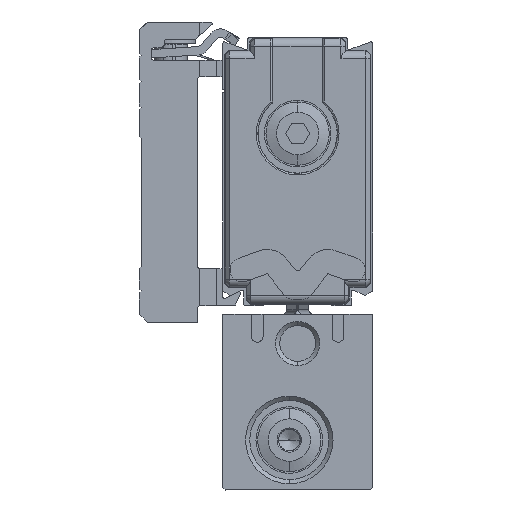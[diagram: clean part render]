
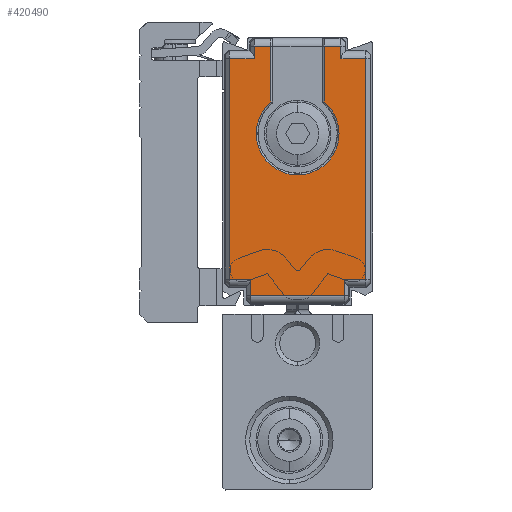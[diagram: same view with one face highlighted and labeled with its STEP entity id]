
A CAD part, left-side view. The second image highlights one B-rep face of the part: STEP entity #420490.
In plain terms, the highlighted planar face has unit normal (-1, 0, 0) as drawn and (0, 0, -1) by its records, which use the part's own axes.
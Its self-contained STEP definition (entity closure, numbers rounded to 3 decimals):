
#418400=CARTESIAN_POINT('',(29.865,18.802,-494.5));
#418410=VERTEX_POINT('',#418400);
#418860=CARTESIAN_POINT('',(3.435,18.802,-494.5));
#418870=VERTEX_POINT('',#418860);
#418920=CARTESIAN_POINT('',(3.435,18.802,-494.5));
#418930=CARTESIAN_POINT('',(7.84,18.802,-494.5));
#418940=CARTESIAN_POINT('',(12.245,18.802,-494.5));
#418950=CARTESIAN_POINT('',(21.055,18.802,-494.5));
#418960=CARTESIAN_POINT('',(25.46,18.802,-494.5));
#418970=CARTESIAN_POINT('',(29.865,18.802,-494.5));
#418980=B_SPLINE_CURVE_WITH_KNOTS('',3,(#418920,#418930,#418940,#418950,
#418960,#418970),.UNSPECIFIED.,.F.,.F.,(4,2,4),(24.334,
37.549,50.764),.UNSPECIFIED.);
#418990=EDGE_CURVE('',#418870,#418410,#418980,.T.);
#419110=CARTESIAN_POINT('',(16.65,27.,-494.5));
#419120=DIRECTION('',(0.,0.,1.));
#419130=DIRECTION('',(0.,1.,0.));
#419140=AXIS2_PLACEMENT_3D('',#419110,#419120,#419130);
#419150=PLANE('',#419140);
#419160=CARTESIAN_POINT('',(20.9,27.,-494.5));
#419170=DIRECTION('',(0.,0.,-1.));
#419180=DIRECTION('',(0.,1.,0.));
#419190=AXIS2_PLACEMENT_3D('',#419160,#419170,#419180);
#419200=CIRCLE('',#419190,4.974);
#419210=CARTESIAN_POINT('',(24.688,23.776,-494.5));
#419220=VERTEX_POINT('',#419210);
#419230=CARTESIAN_POINT('',(24.688,30.224,-494.5));
#419240=VERTEX_POINT('',#419230);
#419250=EDGE_CURVE('',#419220,#419240,#419200,.T.);
#419260=ORIENTED_EDGE('',*,*,#419250,.F.);
#419270=CARTESIAN_POINT('',(0.15,30.224,-494.5));
#419280=DIRECTION('',(1.,0.,0.));
#419290=VECTOR('',#419280,1.);
#419300=LINE('',#419270,#419290);
#419310=CARTESIAN_POINT('',(31.365,30.224,-494.5));
#419320=VERTEX_POINT('',#419310);
#419330=EDGE_CURVE('',#419240,#419320,#419300,.T.);
#419340=ORIENTED_EDGE('',*,*,#419330,.F.);
#419350=CARTESIAN_POINT('',(31.365,35.75,-494.5));
#419360=DIRECTION('',(0.,-1.,0.));
#419370=VECTOR('',#419360,1.);
#419380=LINE('',#419350,#419370);
#419390=CARTESIAN_POINT('',(31.365,32.198,-494.5));
#419400=VERTEX_POINT('',#419390);
#419410=EDGE_CURVE('',#419400,#419320,#419380,.T.);
#419420=ORIENTED_EDGE('',*,*,#419410,.T.);
#419430=CARTESIAN_POINT('',(29.365,32.198,-494.5));
#419440=CARTESIAN_POINT('',(29.782,32.198,-494.5));
#419450=CARTESIAN_POINT('',(30.198,32.198,-494.5));
#419460=CARTESIAN_POINT('',(30.865,32.198,-494.5));
#419470=CARTESIAN_POINT('',(31.115,32.198,-494.5));
#419480=CARTESIAN_POINT('',(31.365,32.198,-494.5));
#419490=B_SPLINE_CURVE_WITH_KNOTS('',3,(#419430,#419440,#419450,#419460,
#419470,#419480),.UNSPECIFIED.,.F.,.F.,(4,2,4),(37.587,
38.837,39.587),.UNSPECIFIED.);
#419500=CARTESIAN_POINT('',(29.865,32.198,-494.5));
#419510=VERTEX_POINT('',#419500);
#419520=EDGE_CURVE('',#419510,#419400,#419490,.T.);
#419530=ORIENTED_EDGE('',*,*,#419520,.T.);
#419540=CARTESIAN_POINT('',(29.865,35.75,-494.5));
#419550=DIRECTION('',(0.,1.,0.));
#419560=VECTOR('',#419550,1.);
#419570=LINE('',#419540,#419560);
#419580=CARTESIAN_POINT('',(29.865,35.198,-494.5));
#419590=VERTEX_POINT('',#419580);
#419600=EDGE_CURVE('',#419510,#419590,#419570,.T.);
#419610=ORIENTED_EDGE('',*,*,#419600,.F.);
#419620=CARTESIAN_POINT('',(3.435,35.198,-494.5));
#419630=CARTESIAN_POINT('',(7.84,35.198,-494.5));
#419640=CARTESIAN_POINT('',(12.245,35.198,-494.5));
#419650=CARTESIAN_POINT('',(21.055,35.198,-494.5));
#419660=CARTESIAN_POINT('',(25.46,35.198,-494.5));
#419670=CARTESIAN_POINT('',(29.865,35.198,-494.5));
#419680=B_SPLINE_CURVE_WITH_KNOTS('',3,(#419620,#419630,#419640,#419650,
#419660,#419670),.UNSPECIFIED.,.F.,.F.,(4,2,4),(24.308,
37.523,50.738),.UNSPECIFIED.);
#419690=CARTESIAN_POINT('',(3.435,35.198,-494.5));
#419700=VERTEX_POINT('',#419690);
#419710=EDGE_CURVE('',#419700,#419590,#419680,.T.);
#419720=ORIENTED_EDGE('',*,*,#419710,.T.);
#419730=CARTESIAN_POINT('',(3.435,35.75,-494.5));
#419740=DIRECTION('',(0.,1.,0.));
#419750=VECTOR('',#419740,1.);
#419760=LINE('',#419730,#419750);
#419770=CARTESIAN_POINT('',(3.435,32.648,-494.5));
#419780=VERTEX_POINT('',#419770);
#419790=EDGE_CURVE('',#419780,#419700,#419760,.T.);
#419800=ORIENTED_EDGE('',*,*,#419790,.T.);
#419810=CARTESIAN_POINT('',(3.935,32.648,-494.5));
#419820=CARTESIAN_POINT('',(3.435,32.648,-494.5));
#419830=CARTESIAN_POINT('',(2.935,32.648,-494.5));
#419840=CARTESIAN_POINT('',(2.102,32.648,-494.5));
#419850=CARTESIAN_POINT('',(1.768,32.648,-494.5));
#419860=CARTESIAN_POINT('',(1.435,32.648,-494.5));
#419870=B_SPLINE_CURVE_WITH_KNOTS('',3,(#419810,#419820,#419830,#419840,
#419850,#419860),.UNSPECIFIED.,.F.,.F.,(4,2,4),(37.084,
38.584,39.584),.UNSPECIFIED.);
#419880=CARTESIAN_POINT('',(1.435,32.648,-494.5));
#419890=VERTEX_POINT('',#419880);
#419900=EDGE_CURVE('',#419780,#419890,#419870,.T.);
#419910=ORIENTED_EDGE('',*,*,#419900,.F.);
#419920=CARTESIAN_POINT('',(1.435,35.75,-494.5));
#419930=DIRECTION('',(0.,1.,0.));
#419940=VECTOR('',#419930,1.);
#419950=LINE('',#419920,#419940);
#419960=CARTESIAN_POINT('',(1.435,21.352,-494.5));
#419970=VERTEX_POINT('',#419960);
#419980=EDGE_CURVE('',#419970,#419890,#419950,.T.);
#419990=ORIENTED_EDGE('',*,*,#419980,.T.);
#420000=CARTESIAN_POINT('',(3.935,21.352,-494.5));
#420010=CARTESIAN_POINT('',(3.435,21.352,-494.5));
#420020=CARTESIAN_POINT('',(2.935,21.352,-494.5));
#420030=CARTESIAN_POINT('',(2.102,21.352,-494.5));
#420040=CARTESIAN_POINT('',(1.768,21.352,-494.5));
#420050=CARTESIAN_POINT('',(1.435,21.352,-494.5));
#420060=B_SPLINE_CURVE_WITH_KNOTS('',3,(#420000,#420010,#420020,#420030,
#420040,#420050),.UNSPECIFIED.,.F.,.F.,(4,2,4),(37.084,
38.584,39.584),.UNSPECIFIED.);
#420070=CARTESIAN_POINT('',(3.435,21.352,-494.5));
#420080=VERTEX_POINT('',#420070);
#420090=EDGE_CURVE('',#420080,#419970,#420060,.T.);
#420100=ORIENTED_EDGE('',*,*,#420090,.T.);
#420110=CARTESIAN_POINT('',(3.435,35.75,-494.5));
#420120=DIRECTION('',(0.,-1.,0.));
#420130=VECTOR('',#420120,1.);
#420140=LINE('',#420110,#420130);
#420150=EDGE_CURVE('',#420080,#418870,#420140,.T.);
#420160=ORIENTED_EDGE('',*,*,#420150,.F.);
#420170=ORIENTED_EDGE('',*,*,#418990,.F.);
#420180=CARTESIAN_POINT('',(29.865,35.75,-494.5));
#420190=DIRECTION('',(0.,-1.,0.));
#420200=VECTOR('',#420190,1.);
#420210=LINE('',#420180,#420200);
#420220=CARTESIAN_POINT('',(29.865,21.802,-494.5));
#420230=VERTEX_POINT('',#420220);
#420240=EDGE_CURVE('',#420230,#418410,#420210,.T.);
#420250=ORIENTED_EDGE('',*,*,#420240,.T.);
#420260=CARTESIAN_POINT('',(29.365,21.802,-494.5));
#420270=CARTESIAN_POINT('',(29.782,21.802,-494.5));
#420280=CARTESIAN_POINT('',(30.198,21.802,-494.5));
#420290=CARTESIAN_POINT('',(30.865,21.802,-494.5));
#420300=CARTESIAN_POINT('',(31.115,21.802,-494.5));
#420310=CARTESIAN_POINT('',(31.365,21.802,-494.5));
#420320=B_SPLINE_CURVE_WITH_KNOTS('',3,(#420260,#420270,#420280,#420290,
#420300,#420310),.UNSPECIFIED.,.F.,.F.,(4,2,4),(37.587,
38.837,39.587),.UNSPECIFIED.);
#420330=CARTESIAN_POINT('',(31.365,21.802,-494.5));
#420340=VERTEX_POINT('',#420330);
#420350=EDGE_CURVE('',#420230,#420340,#420320,.T.);
#420360=ORIENTED_EDGE('',*,*,#420350,.F.);
#420370=CARTESIAN_POINT('',(31.365,23.776,-494.5));
#420380=VERTEX_POINT('',#420370);
#420390=EDGE_CURVE('',#420380,#420340,#419380,.T.);
#420400=ORIENTED_EDGE('',*,*,#420390,.T.);
#420410=CARTESIAN_POINT('',(0.15,23.776,-494.5));
#420420=DIRECTION('',(-1.,0.,0.));
#420430=VECTOR('',#420420,1.);
#420440=LINE('',#420410,#420430);
#420450=EDGE_CURVE('',#420380,#419220,#420440,.T.);
#420460=ORIENTED_EDGE('',*,*,#420450,.F.);
#420470=EDGE_LOOP('',(#420460,#420400,#420360,#420250,#420170,#420160,
#420100,#419990,#419910,#419800,#419720,#419610,#419530,#419420,#419340,
#419260));
#420480=FACE_OUTER_BOUND('',#420470,.T.);
#420490=ADVANCED_FACE('',(#420480),#419150,.F.);
